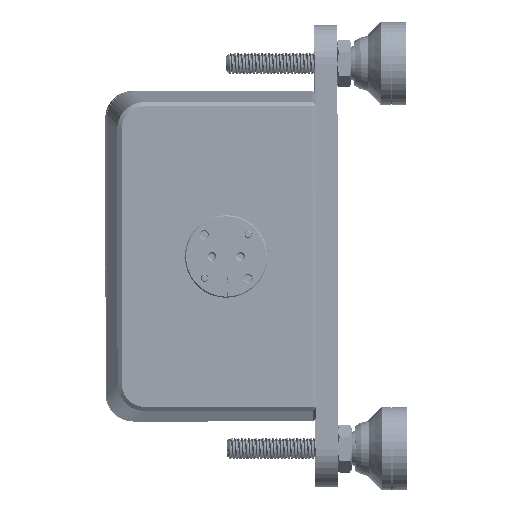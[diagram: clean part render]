
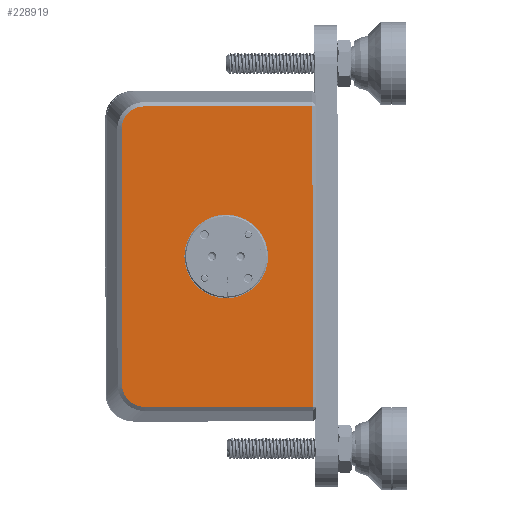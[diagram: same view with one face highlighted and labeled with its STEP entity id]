
A CAD part, left-side view. The second image highlights one B-rep face of the part: STEP entity #228919.
In plain terms, the highlighted planar face has unit normal (-1, -0.002, -0.001).
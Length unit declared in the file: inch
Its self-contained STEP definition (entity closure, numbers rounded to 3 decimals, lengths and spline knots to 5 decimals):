
#1403 = DIRECTION ( 'NONE',  ( -1., -0.002, -0.001 ) ) ;
#4594 = DIRECTION ( 'NONE',  ( 0.001, -0.001, -1. ) ) ;
#6851 = CARTESIAN_POINT ( 'NONE',  ( -1.59324, -7.47924, -1.31746 ) ) ;
#10747 = CARTESIAN_POINT ( 'NONE',  ( -1.59494, -6.84382, 0.0468 ) ) ;
#11855 = EDGE_CURVE ( 'NONE', #395157, #224401, #18542, .T. ) ;
#12947 = CARTESIAN_POINT ( 'NONE',  ( -1.59511, -6.66266, -0.16236 ) ) ;
#17398 = CARTESIAN_POINT ( 'NONE',  ( -1.59489, -6.87131, 0.04683 ) ) ;
#18542 = LINE ( 'NONE', #365222, #237918 ) ;
#18724 = CARTESIAN_POINT ( 'NONE',  ( -1.59322, -7.61374, -0.93729 ) ) ;
#20386 = DIRECTION ( 'NONE',  ( -0.001, 0.001, 1. ) ) ;
#35620 = ORIENTED_EDGE ( 'NONE', *, *, #11855, .T. ) ;
#46846 = CARTESIAN_POINT ( 'NONE',  ( -1.59507, -6.74267, 0.00494 ) ) ;
#53142 = DIRECTION ( 'NONE',  ( 0.002, -1., 0.001 ) ) ;
#69147 = CARTESIAN_POINT ( 'NONE',  ( -1.59303, -7.61424, -1.31728 ) ) ;
#73989 = CARTESIAN_POINT ( 'NONE',  ( -1.59511, -6.70421, -0.03361 ) ) ;
#78504 = VERTEX_POINT ( 'NONE', #17398 ) ;
#88081 = CARTESIAN_POINT ( 'NONE',  ( -1.5918, -8.39923, -1.31627 ) ) ;
#89127 = CARTESIAN_POINT ( 'NONE',  ( -1.59253, -7.48101, -2.68254 ) ) ;
#89782 = CARTESIAN_POINT ( 'NONE',  ( -1.59365, -6.76936, -2.65723 ) ) ;
#89807 = VERTEX_POINT ( 'NONE', #288091 ) ;
#100553 = EDGE_CURVE ( 'NONE', #127792, #89807, #157913, .T. ) ;
#108970 = VERTEX_POINT ( 'NONE', #18724 ) ;
#112212 = CARTESIAN_POINT ( 'NONE',  ( -1.59489, -6.87131, 0.04683 ) ) ;
#112622 = VERTEX_POINT ( 'NONE', #197866 ) ;
#118265 = ORIENTED_EDGE ( 'NONE', *, *, #100553, .T. ) ;
#127792 = VERTEX_POINT ( 'NONE', #161153 ) ;
#136877 = CARTESIAN_POINT ( 'NONE',  ( -1.59347, -6.87485, -2.68332 ) ) ;
#143767 = DIRECTION ( 'NONE',  ( -0.001, 0.001, 1. ) ) ;
#145970 = DIRECTION ( 'NONE',  ( -1., -0.002, -0.001 ) ) ;
#148243 = CARTESIAN_POINT ( 'NONE',  ( -1.59498, -6.81633, 0.04132 ) ) ;
#155395 = ORIENTED_EDGE ( 'NONE', *, *, #179188, .T. ) ;
#157913 = LINE ( 'NONE', #88081, #417662 ) ;
#161153 = CARTESIAN_POINT ( 'NONE',  ( -1.59109, -8.401, -2.68134 ) ) ;
#163749 = VECTOR ( 'NONE', #53142, 39.37008 ) ;
#175065 = CIRCLE ( 'NONE', #390716, 0.38 ) ;
#179188 = EDGE_CURVE ( 'NONE', #78504, #395157, #187513, .T. ) ;
#180223 = FACE_OUTER_BOUND ( 'NONE', #298466, .T. ) ;
#184014 = CARTESIAN_POINT ( 'NONE',  ( -1.59513, -6.66262, -0.13482 ) ) ;
#187513 = B_SPLINE_CURVE_WITH_KNOTS ( 'NONE', 3,
 ( #112212, #10747, #148243, #217796, #46846, #73989, #211141, #424938, #184014, #12947 ),
 .UNSPECIFIED., .F., .F.,
 ( 4, 2, 2, 2, 4 ),
 ( 0., 0.25, 0.5, 0.75, 1. ),
 .UNSPECIFIED. ) ;
#191568 = CIRCLE ( 'NONE', #443229, 0.38 ) ;
#193136 = CARTESIAN_POINT ( 'NONE',  ( -1.59352, -6.84731, -2.68336 ) ) ;
#197866 = CARTESIAN_POINT ( 'NONE',  ( -1.59283, -7.61473, -1.69728 ) ) ;
#208012 = AXIS2_PLACEMENT_3D ( 'NONE', #6851, #418912, #4594 ) ;
#211141 = CARTESIAN_POINT ( 'NONE',  ( -1.59513, -6.68876, -0.05687 ) ) ;
#213928 = FACE_BOUND ( 'NONE', #296379, .T. ) ;
#217796 = CARTESIAN_POINT ( 'NONE',  ( -1.59505, -6.76588, 0.02046 ) ) ;
#224401 = VERTEX_POINT ( 'NONE', #325528 ) ;
#228919 = ADVANCED_FACE ( 'NONE', ( #213928, #180223 ), #281498, .F. ) ;
#233558 = CARTESIAN_POINT ( 'NONE',  ( -1.59378, -6.70755, -2.60331 ) ) ;
#236137 = ORIENTED_EDGE ( 'NONE', *, *, #337026, .F. ) ;
#237747 = B_SPLINE_CURVE_WITH_KNOTS ( 'NONE', 3,
 ( #301082, #438463, #267287, #404771, #233558, #434018, #89782, #364268, #193136, #136877 ),
 .UNSPECIFIED., .F., .F.,
 ( 4, 2, 2, 2, 4 ),
 ( 0., 0.25, 0.5, 0.75, 1. ),
 .UNSPECIFIED. ) ;
#237918 = VECTOR ( 'NONE', #295376, 39.37008 ) ;
#267287 = CARTESIAN_POINT ( 'NONE',  ( -1.59387, -6.67116, -2.52965 ) ) ;
#281498 = PLANE ( 'NONE',  #208012 ) ;
#288091 = CARTESIAN_POINT ( 'NONE',  ( -1.59251, -8.39746, 0.04881 ) ) ;
#291175 = VECTOR ( 'NONE', #379660, 39.37008 ) ;
#294158 = ORIENTED_EDGE ( 'NONE', *, *, #437902, .T. ) ;
#295376 = DIRECTION ( 'NONE',  ( 0.001, -0.001, -1. ) ) ;
#296379 = EDGE_LOOP ( 'NONE', ( #236137, #338794 ) ) ;
#298466 = EDGE_LOOP ( 'NONE', ( #428852, #353557, #118265, #294158, #155395, #35620 ) ) ;
#301082 = CARTESIAN_POINT ( 'NONE',  ( -1.59391, -6.66566, -2.47467 ) ) ;
#309018 = EDGE_CURVE ( 'NONE', #224401, #384502, #237747, .T. ) ;
#325528 = CARTESIAN_POINT ( 'NONE',  ( -1.59391, -6.66566, -2.47467 ) ) ;
#337026 = EDGE_CURVE ( 'NONE', #108970, #112622, #175065, .T. ) ;
#338794 = ORIENTED_EDGE ( 'NONE', *, *, #348790, .F. ) ;
#348498 = CARTESIAN_POINT ( 'NONE',  ( -1.59303, -7.61424, -1.31728 ) ) ;
#348790 = EDGE_CURVE ( 'NONE', #112622, #108970, #191568, .T. ) ;
#350358 = DIRECTION ( 'NONE',  ( -0.001, 0.001, 1. ) ) ;
#353557 = ORIENTED_EDGE ( 'NONE', *, *, #401701, .T. ) ;
#361460 = LINE ( 'NONE', #89127, #163749 ) ;
#364268 = CARTESIAN_POINT ( 'NONE',  ( -1.59356, -6.81985, -2.67797 ) ) ;
#365222 = CARTESIAN_POINT ( 'NONE',  ( -1.59451, -6.66416, -1.31852 ) ) ;
#377445 = LINE ( 'NONE', #442644, #291175 ) ;
#379660 = DIRECTION ( 'NONE',  ( -0.002, 1., -0.001 ) ) ;
#380575 = CARTESIAN_POINT ( 'NONE',  ( -1.59511, -6.66266, -0.16236 ) ) ;
#384502 = VERTEX_POINT ( 'NONE', #424449 ) ;
#390716 = AXIS2_PLACEMENT_3D ( 'NONE', #348498, #145970, #143767 ) ;
#395157 = VERTEX_POINT ( 'NONE', #380575 ) ;
#401701 = EDGE_CURVE ( 'NONE', #384502, #127792, #361460, .T. ) ;
#404771 = CARTESIAN_POINT ( 'NONE',  ( -1.59381, -6.69203, -2.5801 ) ) ;
#417662 = VECTOR ( 'NONE', #20386, 39.37008 ) ;
#418912 = DIRECTION ( 'NONE',  ( 1., 0.002, 0.001 ) ) ;
#424449 = CARTESIAN_POINT ( 'NONE',  ( -1.59347, -6.87485, -2.68332 ) ) ;
#424938 = CARTESIAN_POINT ( 'NONE',  ( -1.59513, -6.66802, -0.10736 ) ) ;
#428852 = ORIENTED_EDGE ( 'NONE', *, *, #309018, .T. ) ;
#434018 = CARTESIAN_POINT ( 'NONE',  ( -1.5937, -6.7461, -2.64177 ) ) ;
#437902 = EDGE_CURVE ( 'NONE', #89807, #78504, #377445, .T. ) ;
#438463 = CARTESIAN_POINT ( 'NONE',  ( -1.59389, -6.66569, -2.50216 ) ) ;
#442644 = CARTESIAN_POINT ( 'NONE',  ( -1.59395, -7.47747, 0.04762 ) ) ;
#443229 = AXIS2_PLACEMENT_3D ( 'NONE', #69147, #1403, #350358 ) ;
